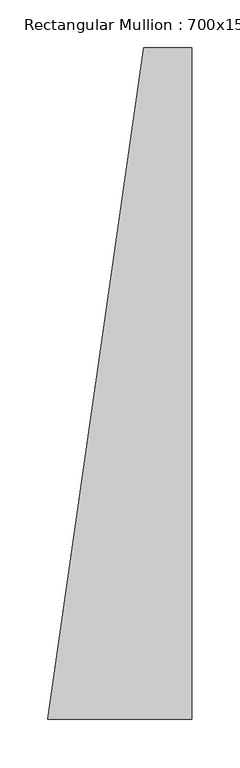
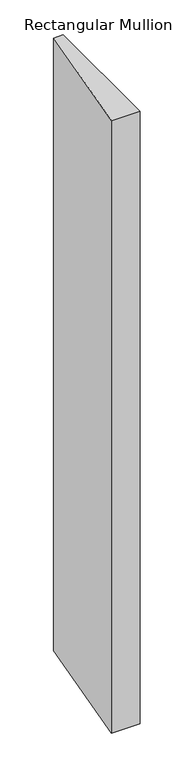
"""IFC4 building model written with IfcOpenShell, lengths in millimetres: member geometry, Rectangular Mullion : 700x150x50mm."""

from ifc_helpers import new_model, si_unit, frame, origin, place, context, project, spatial, polyline, outline, extrude, source, transform, mapped, element, save


def rectangular_mullion_700x150x50mm_4f86105d(model_context):
    return source(origin(), model_context, "Body", "SweptSolid", [
        extrude(outline(polyline([(0.0, -350.0), (-150.0, -350.0), (-50.0, 350.0), (0.0, 350.0), (0.0, -350.0)])), frame((0.0, 0.0, -3408.3333329), z_axis=(0.0, 0.0, 1.0), x_axis=(1.0, 0.0, 0.0)), (0.0, 0.0, 1.0), 3408.3333329),
    ])


if __name__ == "__main__":
    model = new_model("IFC4")
    model_context = context("Model", 3, world=origin())
    ifc_project = project(units=[si_unit("LENGTHUNIT", "METRE", prefix="MILLI")], contexts=[model_context])
    site = spatial("IfcSite", under=ifc_project)
    building = spatial("IfcBuilding", under=site)
    placement = place(None, origin())
    rectangular_mullion_700x150x50mm_shape = rectangular_mullion_700x150x50mm_4f86105d(model_context)
    element("IfcMember", 1, ObjectType="Rectangular Mullion : 700x150x50mm", at=placement, inside=building, context=model_context, shape_type="MappedRepresentation", body=[
        mapped(rectangular_mullion_700x150x50mm_shape, transform((0.0, 0.0, 0.0), x_axis=(1.0, 0.0, 0.0), y_axis=(0.0, 1.0, 0.0), z_axis=(0.0, 0.0, 1.0))),
    ])
    save(model, "model.ifc")
